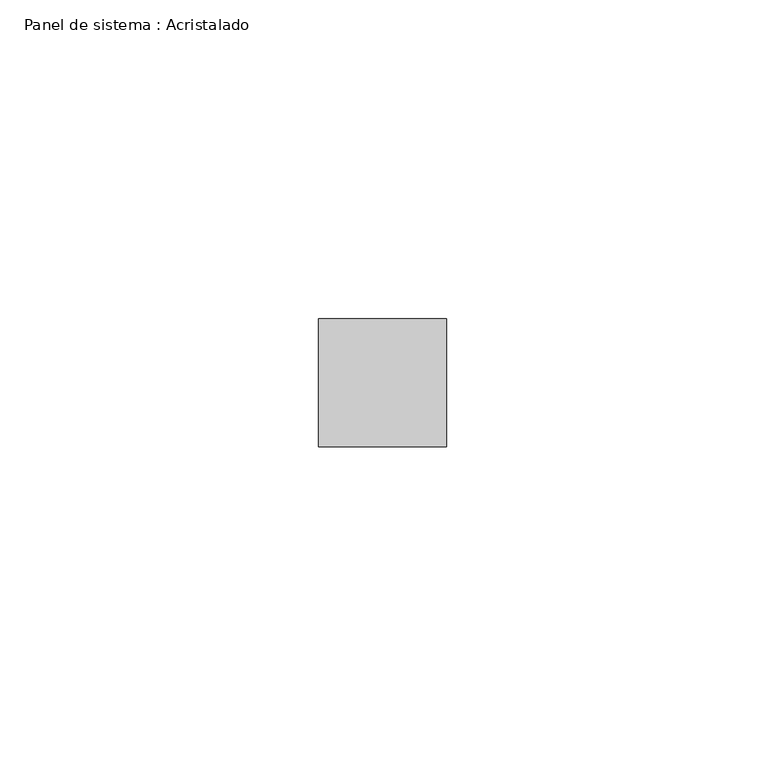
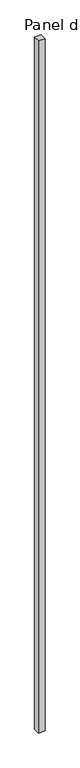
"""IFC4 building model written with IfcOpenShell, lengths in millimetres: plate geometry, Panel de sistema : Acristalado."""

from ifc_helpers import new_model, si_unit, origin, origin_with_axes, place, context, project, spatial, polyline, outline, extrude, source, transform, mapped, element, save


def panel_de_sistema_acristalado_3569e9e6(model_context):
    return source(origin(), model_context, "Body", "SweptSolid", [
        extrude(outline(polyline([(10.0, -10.0), (-10.0, -10.0), (-10.0, 10.0), (10.0, 10.0), (10.0, -10.0)])), origin_with_axes(), (0.0, 0.0, 1.0), 2265.0),
    ])


if __name__ == "__main__":
    model = new_model("IFC4")
    model_context = context("Model", 3, world=origin())
    ifc_project = project(units=[si_unit("LENGTHUNIT", "METRE", prefix="MILLI")], contexts=[model_context])
    site = spatial("IfcSite", under=ifc_project)
    building = spatial("IfcBuilding", under=site)
    placement = place(None, origin())
    panel_de_sistema_acristalado_shape = panel_de_sistema_acristalado_3569e9e6(model_context)
    element("IfcPlate", 1, ObjectType="Panel de sistema : Acristalado", at=placement, inside=building, context=model_context, shape_type="MappedRepresentation", body=[
        mapped(panel_de_sistema_acristalado_shape, transform((0.0, 0.0, 0.0), x_axis=(1.0, 0.0, 0.0), y_axis=(0.0, 1.0, 0.0), z_axis=(0.0, 0.0, 1.0))),
    ])
    save(model, "model.ifc")
